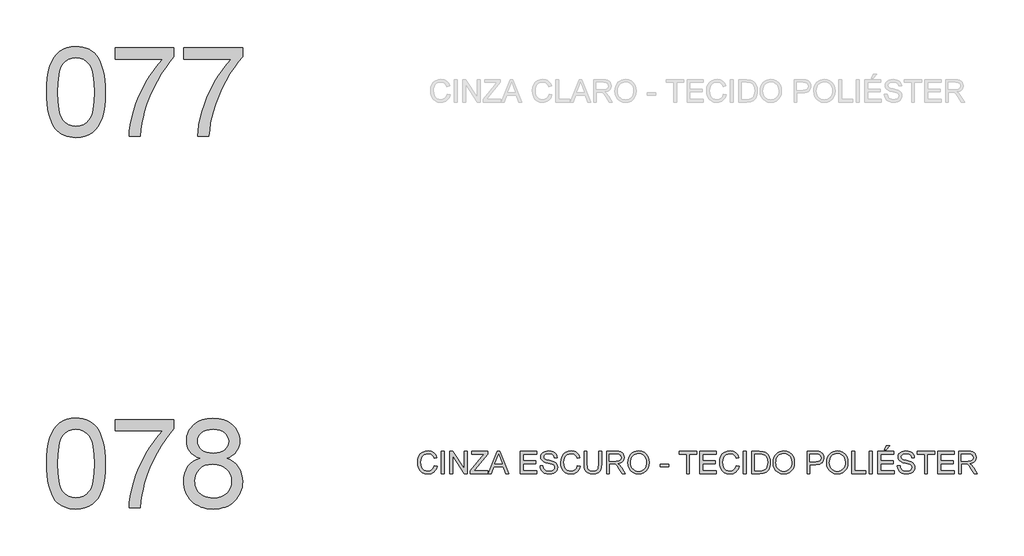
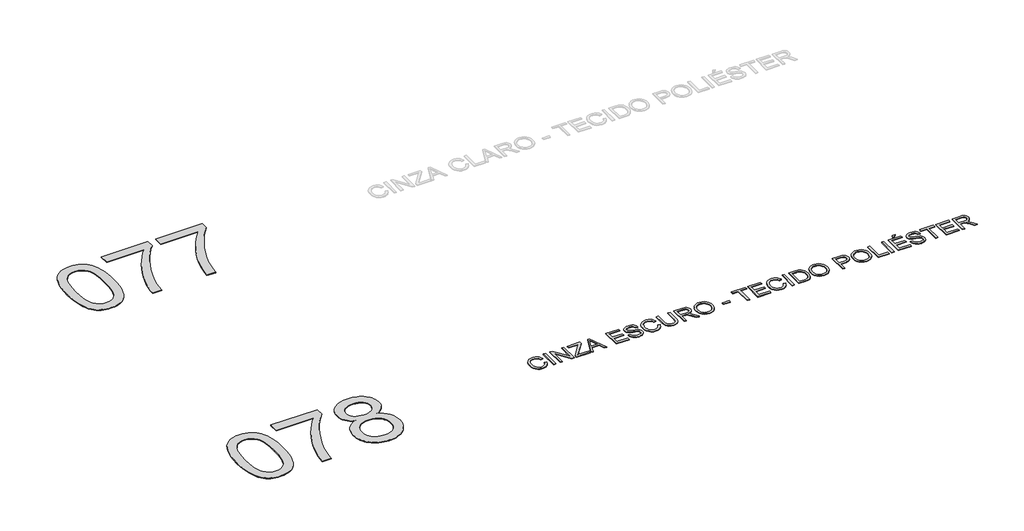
# One storey, part 5 of 35: 3 proxies.
"""IFC4 building model written with IfcOpenShell, lengths in millimetres."""

from ifc_helpers import new_model, si_unit, origin, origin_with_axes, place, context, project, spatial, polyline, outline, extrude, element, save

model = new_model("IFC4")

# Units and contexts
model_context = context("Model", 3, world=origin())
ifc_project = project(units=[si_unit("LENGTHUNIT", "METRE", prefix="MILLI")], contexts=[model_context])

# Site, building, storey
site = spatial("IfcSite", under=ifc_project)
building = spatial("IfcBuilding", under=site)
storey = spatial("IfcBuildingStorey", under=building, Name="Marelli - Linha YOU - Planta Baixa", Elevation=0.0)

# Proxies
placement = place(None, origin())
element("IfcBuildingElementProxy", 1, Name="1200mm Arial", ObjectType="1200mm Arial", at=placement, inside=storey, context=model_context, shape_type="SweptSolid", body=[
    extrude(outline(polyline([(-25181.1313792, -114895.792664), (-25178.3630672, -114794.4319773), (-25170.0581311, -114702.8385576), (-25156.2165711, -114621.0124048), (-25136.838387, -114548.953519), (-25112.0063523, -114486.073289), (-25081.8032405, -114431.7831035), (-25046.2290516, -114386.0829627), (-25005.2837855, -114348.9728664), (-24958.8294866, -114320.2596767), (-24906.728199, -114299.7502555), (-24848.9799228, -114287.4446027), (-24785.584658, -114283.3427185), (-24737.9439396, -114285.7707396), (-24692.7312424, -114293.0548031), (-24649.9465664, -114305.194909), (-24609.5899115, -114322.1910572), (-24572.6361651, -114343.7581391), (-24540.0602144, -114369.6110463), (-24511.8620595, -114399.7497788), (-24488.0417003, -114434.1743365), (-24467.4035204, -114472.7467637), (-24448.7519032, -114515.3291046), (-24417.4083572, -114612.5235278), (-24405.4337983, -114669.6831928), (-24396.8805419, -114735.9479371), (-24391.7485881, -114811.3177609), (-24390.0379368, -114895.792664), (-24392.7786576, -114996.5095573), (-24401.0008202, -115087.6431245), (-24414.7044246, -115169.1933658), (-24433.8894706, -115241.1602811), (-24458.5283672, -115304.0681023), (-24488.5935233, -115358.4410612), (-24524.0849388, -115404.2791578), (-24565.0026137, -115441.5823921), (-24611.5120949, -115470.4887199), (-24663.7789294, -115491.1360968), (-24721.8031171, -115503.524523), (-24785.584658, -115507.6539984), (-24828.2589694, -115505.8605737), (-24868.5788361, -115500.4802995), (-24906.544258, -115491.5131759), (-24942.1552351, -115478.9592028), (-24975.4117675, -115462.8183803), (-25006.3138551, -115443.0907083), (-25034.8614979, -115419.7761868), (-25061.054696, -115392.8748159), (-25089.1976686, -115350.2786794), (-25113.5882449, -115302.0999336), (-25134.2264248, -115248.3385785), (-25151.1122084, -115188.9946142), (-25164.2455956, -115124.0680406), (-25173.6265865, -115053.5588577), (-25179.255181, -114977.4670655), (-25181.1313792, -114895.792664)]), holes=[polyline([(-25030.446914, -114895.4983584), (-25026.03233, -115026.4919399), (-25012.7885782, -115132.5247279), (-25002.8557643, -115176.1808245), (-24990.7156585, -115213.5967226), (-24976.3682607, -115244.7724225), (-24959.8135709, -115269.7079239), (-24922.4367602, -115307.884878), (-24880.9396711, -115335.1541309), (-24835.3223037, -115351.5156826), (-24785.584658, -115356.9695332), (-24735.8470122, -115351.4972885), (-24690.2296448, -115335.0805545), (-24648.7325558, -115307.7193311), (-24611.3557451, -115269.4136183), (-24594.8010553, -115244.418336), (-24580.4536575, -115213.2104465), (-24568.3135516, -115175.7899498), (-24558.3807378, -115132.1568459), (-24545.1369859, -115026.2528166), (-24540.722402, -114895.4983584), (-24544.9898331, -114767.9720648), (-24557.7921266, -114663.8062779), (-24567.3938467, -114620.4835744), (-24579.1292823, -114583.0009976), (-24592.9984335, -114551.3585475), (-24609.0013003, -114525.5562241), (-24645.7527116, -114485.5122689), (-24687.7280473, -114456.9094438), (-24734.9273073, -114439.7477487), (-24787.3504916, -114434.0271837), (-24836.8306199, -114439.067167), (-24881.6754351, -114454.187117), (-24921.8849372, -114479.3870337), (-24957.4591261, -114514.666917), (-24974.5656389, -114543.2145599), (-24989.3912833, -114577.2068562), (-25001.9360594, -114616.6438061), (-25012.199967, -114661.5254095), (-25025.8851772, -114767.6225769), (-25030.446914, -114895.4983584)])]), origin_with_axes(), (0.0, 0.0, 1.0), 10.0),
    extrude(outline(polyline([(-24258.1890297, -114452.8627418), (-24258.1890297, -114302.1782766), (-23467.0955873, -114302.1782766), (-23467.0955873, -114424.0207934), (-23523.6114588, -114490.5246611), (-23579.8514188, -114566.7222194), (-23635.8154673, -114652.6134682), (-23691.5036043, -114748.1984076), (-23743.8991975, -114849.3383651), (-23789.9856144, -114951.8946683), (-23829.7628552, -115055.8673172), (-23863.2309197, -115161.2563118), (-23883.1701238, -115237.7941609), (-23899.1362024, -115317.9004653), (-23911.1291555, -115401.5752251), (-23919.1489829, -115488.8184403), (-24069.8334482, -115488.8184403), (-24065.0969675, -115414.8189769), (-24053.5362758, -115333.4986619), (-24035.1513731, -115244.8574952), (-24009.9422594, -115148.8954767), (-23978.2032402, -115050.1651463), (-23940.2286213, -114953.2190435), (-23896.0184025, -114858.0571684), (-23845.5725839, -114764.679521), (-23791.1628368, -114675.8268221), (-23735.0608326, -114594.2397926), (-23677.2665711, -114519.9184325), (-23617.7800525, -114452.8627418), (-24258.1890297, -114452.8627418)])), origin_with_axes(), (0.0, 0.0, 1.0), 10.0),
    extrude(outline(polyline([(-23335.2466802, -114452.8627418), (-23335.2466802, -114302.1782766), (-22544.1532378, -114302.1782766), (-22544.1532378, -114424.0207934), (-22600.6691093, -114490.5246611), (-22656.9090693, -114566.7222194), (-22712.8731178, -114652.6134682), (-22768.5612548, -114748.1984076), (-22820.956848, -114849.3383651), (-22867.0432649, -114951.8946683), (-22906.8205057, -115055.8673172), (-22940.2885702, -115161.2563118), (-22960.2277743, -115237.7941609), (-22976.1938529, -115317.9004653), (-22988.186806, -115401.5752251), (-22996.2066334, -115488.8184403), (-23146.8910987, -115488.8184403), (-23142.154618, -115414.8189769), (-23130.5939263, -115333.4986619), (-23112.2090236, -115244.8574952), (-23086.9999099, -115148.8954767), (-23055.2608907, -115050.1651463), (-23017.2862718, -114953.2190435), (-22973.076053, -114858.0571684), (-22922.6302344, -114764.679521), (-22868.2204873, -114675.8268221), (-22812.1184831, -114594.2397926), (-22754.3242216, -114519.9184325), (-22694.837703, -114452.8627418), (-23335.2466802, -114452.8627418)])), origin_with_axes(), (0.0, 0.0, 1.0), 10.0),
])
element("IfcBuildingElementProxy", 2, Name="1200mm Arial", ObjectType="1200mm Arial", at=placement, inside=storey, context=model_context, shape_type="SweptSolid", body=[
    extrude(outline(polyline([(-25181.1313792, -119895.792664), (-25178.3630672, -119794.4319773), (-25170.0581311, -119702.8385576), (-25156.2165711, -119621.0124048), (-25136.838387, -119548.953519), (-25112.0063523, -119486.073289), (-25081.8032405, -119431.7831035), (-25046.2290516, -119386.0829627), (-25005.2837855, -119348.9728664), (-24958.8294866, -119320.2596767), (-24906.728199, -119299.7502555), (-24848.9799228, -119287.4446027), (-24785.584658, -119283.3427185), (-24737.9439396, -119285.7707396), (-24692.7312424, -119293.0548031), (-24649.9465664, -119305.194909), (-24609.5899115, -119322.1910572), (-24572.6361651, -119343.7581391), (-24540.0602144, -119369.6110463), (-24511.8620595, -119399.7497788), (-24488.0417003, -119434.1743365), (-24467.4035204, -119472.7467637), (-24448.7519032, -119515.3291046), (-24417.4083572, -119612.5235278), (-24405.4337983, -119669.6831928), (-24396.8805419, -119735.9479371), (-24391.7485881, -119811.3177609), (-24390.0379368, -119895.792664), (-24392.7786576, -119996.5095573), (-24401.0008202, -120087.6431245), (-24414.7044246, -120169.1933658), (-24433.8894706, -120241.1602811), (-24458.5283672, -120304.0681023), (-24488.5935233, -120358.4410612), (-24524.0849388, -120404.2791578), (-24565.0026137, -120441.5823921), (-24611.5120949, -120470.4887199), (-24663.7789294, -120491.1360968), (-24721.8031171, -120503.524523), (-24785.584658, -120507.6539984), (-24828.2589694, -120505.8605737), (-24868.5788361, -120500.4802995), (-24906.544258, -120491.5131759), (-24942.1552351, -120478.9592028), (-24975.4117675, -120462.8183803), (-25006.3138551, -120443.0907083), (-25034.8614979, -120419.7761868), (-25061.054696, -120392.8748159), (-25089.1976686, -120350.2786794), (-25113.5882449, -120302.0999336), (-25134.2264248, -120248.3385785), (-25151.1122084, -120188.9946142), (-25164.2455956, -120124.0680406), (-25173.6265865, -120053.5588577), (-25179.255181, -119977.4670655), (-25181.1313792, -119895.792664)]), holes=[polyline([(-25030.446914, -119895.4983584), (-25026.03233, -120026.4919399), (-25012.7885782, -120132.5247279), (-25002.8557643, -120176.1808245), (-24990.7156585, -120213.5967226), (-24976.3682607, -120244.7724225), (-24959.8135709, -120269.7079239), (-24922.4367602, -120307.884878), (-24880.9396711, -120335.1541309), (-24835.3223037, -120351.5156826), (-24785.584658, -120356.9695332), (-24735.8470122, -120351.4972885), (-24690.2296448, -120335.0805545), (-24648.7325558, -120307.7193311), (-24611.3557451, -120269.4136183), (-24594.8010553, -120244.418336), (-24580.4536575, -120213.2104465), (-24568.3135516, -120175.7899498), (-24558.3807378, -120132.1568459), (-24545.1369859, -120026.2528166), (-24540.722402, -119895.4983584), (-24544.9898331, -119767.9720648), (-24557.7921266, -119663.8062779), (-24567.3938467, -119620.4835744), (-24579.1292823, -119583.0009976), (-24592.9984335, -119551.3585475), (-24609.0013003, -119525.5562241), (-24645.7527116, -119485.5122689), (-24687.7280473, -119456.9094438), (-24734.9273073, -119439.7477487), (-24787.3504916, -119434.0271837), (-24836.8306199, -119439.067167), (-24881.6754351, -119454.187117), (-24921.8849372, -119479.3870337), (-24957.4591261, -119514.666917), (-24974.5656389, -119543.2145599), (-24989.3912833, -119577.2068562), (-25001.9360594, -119616.6438061), (-25012.199967, -119661.5254095), (-25025.8851772, -119767.6225769), (-25030.446914, -119895.4983584)])]), origin_with_axes(), (0.0, 0.0, 1.0), 10.0),
    extrude(outline(polyline([(-24258.1890297, -119452.8627418), (-24258.1890297, -119302.1782766), (-23467.0955873, -119302.1782766), (-23467.0955873, -119424.0207934), (-23523.6114588, -119490.5246611), (-23579.8514188, -119566.7222194), (-23635.8154673, -119652.6134682), (-23691.5036043, -119748.1984076), (-23743.8991975, -119849.3383651), (-23789.9856144, -119951.8946683), (-23829.7628552, -120055.8673172), (-23863.2309197, -120161.2563118), (-23883.1701238, -120237.7941609), (-23899.1362024, -120317.9004653), (-23911.1291555, -120401.5752251), (-23919.1489829, -120488.8184403), (-24069.8334482, -120488.8184403), (-24065.0969675, -120414.8189769), (-24053.5362758, -120333.4986619), (-24035.1513731, -120244.8574952), (-24009.9422594, -120148.8954767), (-23978.2032402, -120050.1651463), (-23940.2286213, -119953.2190435), (-23896.0184025, -119858.0571684), (-23845.5725839, -119764.679521), (-23791.1628368, -119675.8268221), (-23735.0608326, -119594.2397926), (-23677.2665711, -119519.9184325), (-23617.7800525, -119452.8627418), (-24258.1890297, -119452.8627418)])), origin_with_axes(), (0.0, 0.0, 1.0), 10.0),
    extrude(outline(polyline([(-23115.6947055, -119824.8650154), (-23159.0404016, -119806.7652212), (-23196.371227, -119785.1337599), (-23227.6871819, -119759.9706314), (-23252.9882661, -119731.2758358), (-23272.4952089, -119699.3252845), (-23286.4287394, -119664.3948891), (-23294.7888578, -119626.4846495), (-23297.5755639, -119585.5945657), (-23291.505511, -119524.1398784), (-23283.9179448, -119495.3301197), (-23273.2953522, -119467.7987509), (-23259.6377331, -119441.545772), (-23242.9450876, -119416.571183), (-23200.4547172, -119370.4571749), (-23175.1674285, -119350.0397242), (-23147.865986, -119332.3446002), (-23118.5503895, -119317.371803), (-23087.2206391, -119305.1213326), (-23018.5186765, -119288.787372), (-22941.7600982, -119283.3427185), (-22864.6336379, -119288.9161307), (-22795.4166405, -119305.6363674), (-22763.7741904, -119318.1765449), (-22734.109106, -119333.5034285), (-22706.4213873, -119351.6170183), (-22680.7110344, -119372.5173141), (-22637.4481118, -119419.5326331), (-22620.4519636, -119444.8613085), (-22606.5460242, -119471.4039944), (-22595.7302935, -119499.1606909), (-22588.0047716, -119528.1313981), (-22583.3694585, -119558.3161158), (-22581.8243541, -119589.7148441), (-22584.574272, -119629.160991), (-22592.8240257, -119665.9767817), (-22606.5736153, -119700.1622161), (-22625.8230407, -119731.7172942), (-22650.6642724, -119760.2189518), (-22681.189281, -119785.2441245), (-22717.3980664, -119806.7928124), (-22759.2906286, -119824.8650154), (-22709.764515, -119845.9354566), (-22666.5475776, -119872.6528865), (-22629.6398164, -119905.0173051), (-22599.0412315, -119943.0287122), (-22575.0277342, -119985.8409794), (-22557.8752362, -120032.607978), (-22547.5837374, -120083.3297081), (-22544.1532378, -120138.0061697), (-22545.854692, -120176.3670647), (-22550.9590547, -120213.1644613), (-22559.4663258, -120248.3983594), (-22571.3765054, -120282.068759), (-22586.6895935, -120314.1756601), (-22605.40559, -120344.7190628), (-22627.5244949, -120373.6989669), (-22653.0463083, -120401.1153726), (-22681.3456308, -120426.085363), (-22711.797063, -120447.7260214), (-22744.4006048, -120466.0373477), (-22779.1562563, -120481.019342), (-22816.0640175, -120492.6720042), (-22855.1238883, -120500.9953343), (-22896.3358688, -120505.9893324), (-22939.699959, -120507.6539984), (-22983.0640492, -120505.9824346), (-23024.2760297, -120500.9677432), (-23063.3359005, -120492.6099241), (-23100.2436617, -120480.9089774), (-23134.9993132, -120465.864903), (-23167.602855, -120447.4777011), (-23198.0542872, -120425.7473715), (-23226.3536096, -120400.6739142), (-23251.875423, -120373.1034579), (-23273.994328, -120343.8821312), (-23292.7103245, -120313.009934), (-23308.0234126, -120280.4868664), (-23319.9335922, -120246.3129283), (-23328.4408633, -120210.4881198), (-23333.545226, -120173.0124408), (-23335.2466802, -120133.8858913), (-23331.6782249, -120076.7170293), (-23320.9728588, -120024.4042096), (-23303.130582, -119976.9474322), (-23278.1513946, -119934.3466971), (-23246.5871194, -119897.3745566), (-23208.9895795, -119866.8035628), (-23165.3587748, -119842.6337157), (-23115.6947055, -119824.8650154)]), holes=[polyline([(-23146.8910987, -119590.0091497), (-23143.5525696, -119624.553269), (-23133.5369822, -119655.7864504), (-23116.8443367, -119683.7086938), (-23093.474633, -119708.3199993), (-23063.7221766, -119728.4063562), (-23027.8812732, -119742.753754), (-22985.9519228, -119751.3621927), (-22937.9341254, -119754.2316723), (-22891.1027474, -119751.3805868), (-22850.083905, -119742.8273304), (-22814.877598, -119728.5719031), (-22785.4838266, -119708.6143049), (-22762.3072609, -119684.5180342), (-22745.7525711, -119657.8465896), (-22735.8197573, -119628.5999709), (-22732.5088193, -119596.7781784), (-22735.9301219, -119563.714784), (-22746.1940295, -119533.3921106), (-22763.3005423, -119505.810158), (-22787.2496602, -119480.9689263), (-22817.3056192, -119460.4319139), (-22852.7326553, -119445.7626193), (-22893.5307686, -119436.9610426), (-22939.699959, -119434.0271837), (-22986.2278343, -119436.8966633), (-23027.2190856, -119445.5051019), (-23062.6737129, -119459.8524998), (-23092.5917162, -119479.9388567), (-23116.347696, -119504.0351274), (-23133.3162531, -119530.4122664), (-23143.4973873, -119559.0702739), (-23146.8910987, -119590.0091497)]), polyline([(-23184.562215, -120128.5883906), (-23182.9895195, -120157.6418712), (-23178.2714329, -120186.2354992), (-23159.3990865, -120242.0431979), (-23144.3986982, -120267.9328933), (-23124.5606616, -120290.7139859), (-23099.8849767, -120310.3864756), (-23070.3716437, -120326.9503624), (-23038.1819691, -120340.0837496), (-23005.4772597, -120349.4647405), (-22972.2575156, -120355.093335), (-22938.5227366, -120356.9695332), (-22884.0394131, -120353.0239988), (-22835.9572364, -120341.1873956), (-22794.2762063, -120321.4597236), (-22758.996323, -120293.8409828), (-22730.9269267, -120260.133795), (-22710.877358, -120222.140782), (-22698.8476167, -120179.8619437), (-22694.837703, -120133.2972801), (-22698.9763754, -120085.9876555), (-22711.3923928, -120042.9454621), (-22732.085755, -120004.1706998), (-22761.0564621, -119969.6633687), (-22797.2928387, -119941.336455), (-22839.7832091, -119921.1029453), (-22888.5275735, -119908.9628395), (-22943.5259317, -119904.9161375), (-22997.2091119, -119908.9076572), (-23044.6566922, -119920.8822161), (-23085.8686727, -119940.8398144), (-23120.8450534, -119968.7804519), (-23148.7213116, -120002.7175659), (-23168.6329246, -120040.6645937), (-23180.5798924, -120082.6215353), (-23184.562215, -120128.5883906)])]), origin_with_axes(), (0.0, 0.0, 1.0), 10.0),
])
element("IfcBuildingElementProxy", 3, Name="300mm Arial", ObjectType="300mm Arial", at=placement, inside=storey, context=model_context, shape_type="SweptSolid", body=[
    extrude(outline(polyline([(-19962.5883605, -119923.4390831), (-19924.9172442, -119933.1511677), (-19932.3714531, -119956.5783531), (-19942.2996685, -119977.0486868), (-19954.7018902, -119994.5621691), (-19969.5781184, -120009.1187997), (-19986.5926607, -120020.5622291), (-20005.4098247, -120028.7361071), (-20026.0296106, -120033.640434), (-20048.4520182, -120035.2752096), (-20092.1472021, -120030.3271968), (-20126.8476713, -120015.4831583), (-20153.4455396, -119991.2581289), (-20172.8329207, -119958.1671434), (-20184.6695239, -119919.2636224), (-20188.6150583, -119877.6009865), (-20184.1544891, -119833.6574822), (-20170.7727816, -119795.7104543), (-20149.1689114, -119764.9647166), (-20120.0418544, -119742.6250824), (-20085.4977351, -119729.0226457), (-20047.6426778, -119724.4885001), (-20006.3387268, -119730.3562179), (-19988.3699906, -119737.6908652), (-19972.1900806, -119747.9593714), (-19958.0657112, -119760.8904235), (-19946.263597, -119776.2127086), (-19929.6261337, -119814.0309777), (-19967.29725, -119823.0072984), (-19980.3570609, -119795.5357104), (-19998.1993376, -119776.6909552), (-20021.0448095, -119765.7924511), (-20049.1142058, -119762.1596164), (-20081.4694272, -119766.1879242), (-20108.0489014, -119778.2728478), (-20128.2180318, -119797.1451941), (-20141.3422219, -119821.5357704), (-20148.543512, -119849.1085259), (-20150.943942, -119877.5274101), (-20148.1020536, -119912.3290468), (-20139.5763884, -119942.421794), (-20125.0450496, -119966.6560205), (-20104.1861404, -119983.8820949), (-20079.1793618, -119994.1735937), (-20052.2044145, -119997.6040933), (-20020.759701, -119992.931992), (-19994.5573059, -119978.9156879), (-19974.7744516, -119955.7023341), (-19962.5883605, -119923.4390831)])), origin_with_axes(), (0.0, 0.0, 1.0), 10.0),
    extrude(outline(polyline([(-19868.4105697, -120030.5663201), (-19868.4105697, -119729.1973896), (-19830.7394534, -119729.1973896), (-19830.7394534, -120030.5663201), (-19868.4105697, -120030.5663201)])), origin_with_axes(), (0.0, 0.0, 1.0), 10.0),
    extrude(outline(polyline([(-19755.3972208, -120030.5663201), (-19755.3972208, -119729.1973896), (-19715.0773541, -119729.1973896), (-19557.6238602, -119967.9528045), (-19557.6238602, -119729.1973896), (-19519.9527439, -119729.1973896), (-19519.9527439, -120030.5663201), (-19560.2726106, -120030.5663201), (-19717.7261045, -119791.7373288), (-19717.7261045, -120030.5663201), (-19755.3972208, -120030.5663201)])), origin_with_axes(), (0.0, 0.0, 1.0), 10.0),
    extrude(outline(polyline([(-19477.5727381, -120030.5663201), (-19477.5727381, -119991.4972522), (-19323.4301821, -119802.7737887), (-19294.1467753, -119766.8685059), (-19458.7371799, -119766.8685059), (-19458.7371799, -119729.1973896), (-19246.8371507, -119729.1973896), (-19246.8371507, -119766.8685059), (-19415.5478337, -119973.397458), (-19431.4403359, -119992.8952038), (-19242.1282611, -119992.8952038), (-19242.1282611, -120030.5663201), (-19477.5727381, -120030.5663201)])), origin_with_axes(), (0.0, 0.0, 1.0), 10.0),
    extrude(outline(polyline([(-19234.8441976, -120030.5663201), (-19114.5467852, -119729.1973896), (-19082.4674752, -119729.1973896), (-18962.1700628, -120030.5663201), (-19001.9748947, -120030.5663201), (-19036.4822258, -119936.3885293), (-19160.605611, -119936.3885293), (-19195.0393658, -120030.5663201), (-19234.8441976, -120030.5663201)]), holes=[polyline([(-19146.773248, -119898.717413), (-19050.2410125, -119898.717413), (-19077.3907037, -119824.6259792), (-19098.5071302, -119766.8685059), (-19117.269112, -119818.1512561), (-19146.773248, -119898.717413)])]), origin_with_axes(), (0.0, 0.0, 1.0), 10.0),
    extrude(outline(polyline([(-18804.2015341, -120030.5663201), (-18804.2015341, -119729.1973896), (-18587.5926153, -119729.1973896), (-18587.5926153, -119766.8685059), (-18766.5304178, -119766.8685059), (-18766.5304178, -119856.3374072), (-18597.0103944, -119856.3374072), (-18597.0103944, -119894.0085235), (-18766.5304178, -119894.0085235), (-18766.5304178, -119992.8952038), (-18582.8837258, -119992.8952038), (-18582.8837258, -120030.5663201), (-18804.2015341, -120030.5663201)])), origin_with_axes(), (0.0, 0.0, 1.0), 10.0),
    extrude(outline(polyline([(-18540.5037199, -119926.9707502), (-18502.8326036, -119926.9707502), (-18498.5099902, -119947.8756446), (-18490.6924978, -119964.6786547), (-18478.4972097, -119978.0143771), (-18461.041209, -119988.517408), (-18439.7040533, -119995.332422), (-18415.8653, -119997.6040933), (-18394.8776321, -119995.884245), (-18376.5019265, -119990.7247), (-18361.6119027, -119982.5577197), (-18351.0812806, -119971.8155654), (-18344.8180897, -119959.4823216), (-18342.7303593, -119946.5420724), (-18344.2938578, -119933.932917), (-18348.9843532, -119923.0344129), (-18358.5124969, -119913.7361955), (-18374.5889401, -119905.9279001), (-18429.4401456, -119891.5437141), (-18465.4465959, -119882.0247675), (-18488.4852058, -119872.9656733), (-18507.2379905, -119860.2921386), (-18520.5277276, -119844.9330653), (-18528.4463875, -119827.2195472), (-18531.0859409, -119807.4826782), (-18527.8209882, -119785.4189555), (-18518.02613, -119764.845155), (-18501.9588839, -119747.4075484), (-18479.8767671, -119734.7524077), (-18453.3708694, -119727.054477), (-18424.0322803, -119724.4885001), (-18392.2472759, -119727.1740386), (-18364.435397, -119735.2306543), (-18341.5899251, -119748.4928003), (-18324.7041416, -119766.7949295), (-18314.0171696, -119788.9966079), (-18309.7681326, -119813.9574013), (-18347.4392489, -119813.9574013), (-18354.3554304, -119791.4798114), (-18368.7764046, -119775.2562154), (-18391.3091768, -119765.4337661), (-18422.5607523, -119762.1596164), (-18454.5480918, -119765.3969779), (-18476.4922528, -119775.1090626), (-18489.1841816, -119789.4012781), (-18493.4148246, -119806.3790322), (-18490.4165863, -119820.8551887), (-18481.4218715, -119832.4986539), (-18460.1582922, -119842.9097143), (-18419.9120019, -119853.541504), (-18378.3781247, -119863.6398648), (-18353.2517844, -119872.4506385), (-18331.7766729, -119886.1174547), (-18316.7946787, -119902.9848441), (-18307.9931019, -119922.868866), (-18305.059243, -119945.5855792), (-18308.4345603, -119968.8081301), (-18318.5605122, -119990.6511236), (-18335.0232315, -120009.4498935), (-18357.4088509, -120023.539774), (-18384.3286159, -120032.3413507), (-18414.393772, -120035.2752096), (-18451.3015332, -120032.1114244), (-18481.6793889, -120022.620069), (-18505.8768271, -120006.764355), (-18524.2433358, -119984.5074943), (-18536.0339537, -119957.3945912), (-18540.5037199, -119926.9707502)])), origin_with_axes(), (0.0, 0.0, 1.0), 10.0),
    extrude(outline(polyline([(-18036.6525393, -119923.4390831), (-17998.981423, -119933.1511677), (-18006.435632, -119956.5783531), (-18016.3638473, -119977.0486868), (-18028.7660691, -119994.5621691), (-18043.6422973, -120009.1187997), (-18060.6568395, -120020.5622291), (-18079.4740036, -120028.7361071), (-18100.0937894, -120033.640434), (-18122.516197, -120035.2752096), (-18166.211381, -120030.3271968), (-18200.9118502, -120015.4831583), (-18227.5097184, -119991.2581289), (-18246.8970996, -119958.1671434), (-18258.7337028, -119919.2636224), (-18262.6792372, -119877.6009865), (-18258.218668, -119833.6574822), (-18244.8369604, -119795.7104543), (-18223.2330902, -119764.9647166), (-18194.1060333, -119742.6250824), (-18159.5619139, -119729.0226457), (-18121.7068566, -119724.4885001), (-18080.4029056, -119730.3562179), (-18062.4341694, -119737.6908652), (-18046.2542594, -119747.9593714), (-18032.1298901, -119760.8904235), (-18020.3277758, -119776.2127086), (-18003.6903126, -119814.0309777), (-18041.3614289, -119823.0072984), (-18054.4212397, -119795.5357104), (-18072.2635165, -119776.6909552), (-18095.1089884, -119765.7924511), (-18123.1783846, -119762.1596164), (-18155.5336061, -119766.1879242), (-18182.1130802, -119778.2728478), (-18202.2822106, -119797.1451941), (-18215.4064008, -119821.5357704), (-18222.6076909, -119849.1085259), (-18225.0081209, -119877.5274101), (-18222.1662325, -119912.3290468), (-18213.6405672, -119942.421794), (-18199.1092284, -119966.6560205), (-18178.2503193, -119983.8820949), (-18153.2435407, -119994.1735937), (-18126.2685934, -119997.6040933), (-18094.8238798, -119992.931992), (-18068.6214847, -119978.9156879), (-18048.8386304, -119955.7023341), (-18036.6525393, -119923.4390831)])), origin_with_axes(), (0.0, 0.0, 1.0), 10.0),
    extrude(outline(polyline([(-17749.4102775, -119729.1973896), (-17711.7391612, -119729.1973896), (-17711.7391612, -119903.0584205), (-17714.2959411, -119943.7737604), (-17721.9662807, -119975.1265034), (-17736.2952844, -119999.3147446), (-17758.8280566, -120018.5365788), (-17789.6197796, -120031.0905519), (-17828.7256357, -120035.2752096), (-17866.9761661, -120031.6331779), (-17897.556357, -120020.7070826), (-17920.4754053, -120002.8740029), (-17935.7425081, -119978.5110178), (-17944.3233556, -119945.8338995), (-17947.1836381, -119903.0584205), (-17947.1836381, -119729.1973896), (-17909.5125218, -119729.1973896), (-17909.5125218, -119901.7340454), (-17907.6547177, -119935.588386), (-17902.0813055, -119959.1604248), (-17891.9829447, -119975.4851883), (-17876.550295, -119987.597703), (-17856.4271499, -119995.1024957), (-17832.2573028, -119997.6040933), (-17793.942393, -119992.6560805), (-17779.5995937, -119986.4710644), (-17768.4665649, -119977.812042), (-17760.1294391, -119965.6351479), (-17754.1743493, -119948.8965171), (-17749.4102775, -119901.7340454), (-17749.4102775, -119729.1973896)])), origin_with_axes(), (0.0, 0.0, 1.0), 10.0),
    extrude(outline(polyline([(-17645.8147077, -120030.5663201), (-17645.8147077, -119729.1973896), (-17515.9523634, -119729.1973896), (-17481.0495591, -119731.2299376), (-17455.6565044, -119737.3275817), (-17437.0968577, -119748.5847708), (-17422.6942776, -119766.0959537), (-17413.4512425, -119787.8101885), (-17410.3702308, -119811.6765329), (-17415.4745934, -119841.3646099), (-17430.7876815, -119865.9759154), (-17442.3874606, -119876.0052983), (-17456.7693474, -119884.0205273), (-17493.8794437, -119894.0085235), (-17472.4687115, -119910.1217548), (-17441.9345059, -119948.8965171), (-17391.6818254, -120030.5663201), (-17435.4597828, -120030.5663201), (-17474.6760035, -119968.0999573), (-17503.0029171, -119926.750021), (-17522.9053331, -119907.2154871), (-17540.8211862, -119900.0417882), (-17562.6733768, -119898.717413), (-17608.1435914, -119898.717413), (-17608.1435914, -120030.5663201), (-17645.8147077, -120030.5663201)]), holes=[polyline([(-17608.1435914, -119861.0462967), (-17523.8250381, -119861.0462967), (-17499.6092057, -119859.7127245), (-17480.8196328, -119855.7120078), (-17466.6745701, -119848.7774322), (-17456.3922684, -119838.6422832), (-17450.1290774, -119826.3826157), (-17448.0413471, -119813.0744845), (-17452.0236697, -119794.6987789), (-17463.9706375, -119779.8915286), (-17484.5260439, -119770.1242616), (-17514.3336826, -119766.8685059), (-17608.1435914, -119766.8685059), (-17608.1435914, -119861.0462967)])]), origin_with_axes(), (0.0, 0.0, 1.0), 10.0),
    extrude(outline(polyline([(-17358.5724458, -119883.8549804), (-17356.0616512, -119848.5061192), (-17348.5292674, -119817.213157), (-17335.9752943, -119789.9760937), (-17318.399732, -119766.7949295), (-17296.8556426, -119748.2858666), (-17272.3960885, -119735.0651074), (-17245.0210695, -119727.1326519), (-17214.7305857, -119724.4885001), (-17175.2016653, -119729.454907), (-17139.7562351, -119744.3541278), (-17110.3256755, -119768.1376988), (-17088.841367, -119799.7571563), (-17075.7079797, -119837.68579), (-17071.330184, -119880.3968896), (-17075.937906, -119923.6782064), (-17089.761072, -119962.140269), (-17112.0363268, -119993.8149088), (-17142.0003153, -120016.7339571), (-17177.1422429, -120030.6398965), (-17214.9513149, -120035.2752096), (-17255.0872406, -120030.1524528), (-17290.7350059, -120014.7841825), (-17320.0919891, -119990.5591531), (-17341.3555685, -119958.8661192), (-17354.2682265, -119922.3998164), (-17358.5724458, -119883.8549804)]), holes=[polyline([(-17320.9013295, -119884.2228624), (-17319.0182336, -119909.1974513), (-17313.3689457, -119931.3669401), (-17303.9534659, -119950.7313286), (-17290.7717941, -119967.2906169), (-17274.748234, -119980.5527628), (-17256.8070889, -119990.0257242), (-17236.948359, -119995.709501), (-17215.1720441, -119997.6040933), (-17193.0232487, -119995.6911069), (-17172.929994, -119989.9521478), (-17154.8922799, -119980.3872159), (-17138.9101065, -119966.9963113), (-17125.8250038, -119950.0875351), (-17116.4785019, -119929.9689885), (-17110.8706007, -119906.6406715), (-17109.0013003, -119880.102584), (-17112.2018737, -119846.7540812), (-17121.8035937, -119817.9305269), (-17137.5581402, -119794.358488), (-17159.2171926, -119776.7645316), (-17185.3460114, -119765.8108452), (-17214.5098565, -119762.1596164), (-17235.529714, -119763.9185522), (-17255.0320583, -119769.1953595), (-17273.0168893, -119777.9900385), (-17289.4842071, -119790.302589), (-17303.2291982, -119806.7262208), (-17313.0470489, -119827.8541437), (-17318.9377594, -119853.6863575), (-17320.9013295, -119884.2228624)])]), origin_with_axes(), (0.0, 0.0, 1.0), 10.0),
    extrude(outline(polyline([(-16925.3546083, -119941.0974188), (-16925.3546083, -119903.4263025), (-16807.6323699, -119903.4263025), (-16807.6323699, -119941.0974188), (-16925.3546083, -119941.0974188)])), origin_with_axes(), (0.0, 0.0, 1.0), 10.0),
    extrude(outline(polyline([(-16567.4790034, -120030.5663201), (-16567.4790034, -119766.8685059), (-16666.3656837, -119766.8685059), (-16666.3656837, -119729.1973896), (-16430.9212068, -119729.1973896), (-16430.9212068, -119766.8685059), (-16529.8078871, -119766.8685059), (-16529.8078871, -120030.5663201), (-16567.4790034, -120030.5663201)])), origin_with_axes(), (0.0, 0.0, 1.0), 10.0),
    extrude(outline(polyline([(-16388.541201, -120030.5663201), (-16388.541201, -119729.1973896), (-16171.9322822, -119729.1973896), (-16171.9322822, -119766.8685059), (-16350.8700846, -119766.8685059), (-16350.8700846, -119856.3374072), (-16181.3500613, -119856.3374072), (-16181.3500613, -119894.0085235), (-16350.8700846, -119894.0085235), (-16350.8700846, -119992.8952038), (-16167.2233927, -119992.8952038), (-16167.2233927, -120030.5663201), (-16388.541201, -120030.5663201)])), origin_with_axes(), (0.0, 0.0, 1.0), 10.0),
    extrude(outline(polyline([(-15898.816689, -119923.4390831), (-15861.1455727, -119933.1511677), (-15868.5997816, -119956.5783531), (-15878.5279969, -119977.0486868), (-15890.9302187, -119994.5621691), (-15905.8064469, -120009.1187997), (-15922.8209892, -120020.5622291), (-15941.6381532, -120028.7361071), (-15962.257939, -120033.640434), (-15984.6803466, -120035.2752096), (-16028.3755306, -120030.3271968), (-16063.0759998, -120015.4831583), (-16089.6738681, -119991.2581289), (-16109.0612492, -119958.1671434), (-16120.8978524, -119919.2636224), (-16124.8433868, -119877.6009865), (-16120.3828176, -119833.6574822), (-16107.00111, -119795.7104543), (-16085.3972399, -119764.9647166), (-16056.2701829, -119742.6250824), (-16021.7260636, -119729.0226457), (-15983.8710063, -119724.4885001), (-15942.5670552, -119730.3562179), (-15924.598319, -119737.6908652), (-15908.418409, -119747.9593714), (-15894.2940397, -119760.8904235), (-15882.4919254, -119776.2127086), (-15865.8544622, -119814.0309777), (-15903.5255785, -119823.0072984), (-15916.5853893, -119795.5357104), (-15934.4276661, -119776.6909552), (-15957.273138, -119765.7924511), (-15985.3425342, -119762.1596164), (-16017.6977557, -119766.1879242), (-16044.2772299, -119778.2728478), (-16064.4463603, -119797.1451941), (-16077.5705504, -119821.5357704), (-16084.7718405, -119849.1085259), (-16087.1722705, -119877.5274101), (-16084.3303821, -119912.3290468), (-16075.8047169, -119942.421794), (-16061.273378, -119966.6560205), (-16040.4144689, -119983.8820949), (-16015.4076903, -119994.1735937), (-15988.432743, -119997.6040933), (-15956.9880295, -119992.931992), (-15930.7856344, -119978.9156879), (-15911.0027801, -119955.7023341), (-15898.816689, -119923.4390831)])), origin_with_axes(), (0.0, 0.0, 1.0), 10.0),
    extrude(outline(polyline([(-15804.6388982, -120030.5663201), (-15804.6388982, -119729.1973896), (-15766.9677819, -119729.1973896), (-15766.9677819, -120030.5663201), (-15804.6388982, -120030.5663201)])), origin_with_axes(), (0.0, 0.0, 1.0), 10.0),
    extrude(outline(polyline([(-15691.6255493, -120030.5663201), (-15691.6255493, -119729.1973896), (-15587.6620975, -119729.1973896), (-15533.8777498, -119733.5383972), (-15509.8550555, -119741.9077126), (-15489.5847575, -119755.0962821), (-15468.7442425, -119778.0521186), (-15453.900204, -119806.5997614), (-15445.0158538, -119840.1873876), (-15442.0544038, -119878.2631741), (-15444.0593606, -119910.6091985), (-15450.0742313, -119939.0740679), (-15459.2344929, -119963.3082943), (-15470.675623, -119982.9623899), (-15483.8457984, -119998.477813), (-15498.1931962, -120010.2960221), (-15514.6651126, -120019.0608107), (-15534.2088436, -120025.4159721), (-15582.6589023, -120030.5663201), (-15691.6255493, -120030.5663201)]), holes=[polyline([(-15653.954433, -119992.8952038), (-15587.2942155, -119992.8952038), (-15559.7214599, -119991.5340404), (-15538.8073685, -119987.4505502), (-15523.0252309, -119980.8838566), (-15510.8483369, -119972.0730828), (-15497.7609349, -119955.7667134), (-15487.9292886, -119934.6594839), (-15481.7764622, -119908.6594239), (-15479.7255201, -119877.6745629), (-15483.7446309, -119836.6189322), (-15495.8019633, -119806.3054558), (-15513.6166489, -119785.4833349), (-15534.9078193, -119772.9017706), (-15556.5760689, -119768.3768221), (-15588.324285, -119766.8685059), (-15653.954433, -119766.8685059), (-15653.954433, -119992.8952038)])]), origin_with_axes(), (0.0, 0.0, 1.0), 10.0),
    extrude(outline(polyline([(-15404.3832875, -119883.8549804), (-15401.8724928, -119848.5061192), (-15394.340109, -119817.213157), (-15381.7861359, -119789.9760937), (-15364.2105736, -119766.7949295), (-15342.6664842, -119748.2858666), (-15318.2069301, -119735.0651074), (-15290.8319111, -119727.1326519), (-15260.5414273, -119724.4885001), (-15221.012507, -119729.454907), (-15185.5670767, -119744.3541278), (-15156.1365171, -119768.1376988), (-15134.6522086, -119799.7571563), (-15121.5188214, -119837.68579), (-15117.1410256, -119880.3968896), (-15121.7487476, -119923.6782064), (-15135.5719136, -119962.140269), (-15157.8471684, -119993.8149088), (-15187.8111569, -120016.7339571), (-15222.9530845, -120030.6398965), (-15260.7621565, -120035.2752096), (-15300.8980822, -120030.1524528), (-15336.5458475, -120014.7841825), (-15365.9028308, -119990.5591531), (-15387.1664101, -119958.8661192), (-15400.0790681, -119922.3998164), (-15404.3832875, -119883.8549804)]), holes=[polyline([(-15366.7121711, -119884.2228624), (-15364.8290752, -119909.1974513), (-15359.1797873, -119931.3669401), (-15349.7643075, -119950.7313286), (-15336.5826357, -119967.2906169), (-15320.5590756, -119980.5527628), (-15302.6179305, -119990.0257242), (-15282.7592006, -119995.709501), (-15260.9828857, -119997.6040933), (-15238.8340904, -119995.6911069), (-15218.7408356, -119989.9521478), (-15200.7031216, -119980.3872159), (-15184.7209481, -119966.9963113), (-15171.6358454, -119950.0875351), (-15162.2893435, -119929.9689885), (-15156.6814423, -119906.6406715), (-15154.8121419, -119880.102584), (-15158.0127153, -119846.7540812), (-15167.6144354, -119817.9305269), (-15183.3689818, -119794.358488), (-15205.0280343, -119776.7645316), (-15231.156853, -119765.8108452), (-15260.3206981, -119762.1596164), (-15281.3405556, -119763.9185522), (-15300.8428999, -119769.1953595), (-15318.827731, -119777.9900385), (-15335.2950488, -119790.302589), (-15349.0400398, -119806.7262208), (-15358.8578906, -119827.8541437), (-15364.748601, -119853.6863575), (-15366.7121711, -119884.2228624)])]), origin_with_axes(), (0.0, 0.0, 1.0), 10.0),
    extrude(outline(polyline([(-14947.6210022, -120030.5663201), (-14947.6210022, -119729.1973896), (-14835.9320285, -119729.1973896), (-14790.9032723, -119732.0668692), (-14770.8261124, -119737.4287493), (-14754.2990138, -119746.1567496), (-14740.9908826, -119758.6463433), (-14730.5706251, -119775.2930036), (-14723.8383846, -119794.9287051), (-14721.5943044, -119816.3854225), (-14723.1095184, -119834.8852883), (-14727.6551603, -119851.9044291), (-14735.2312301, -119867.4428449), (-14745.8377279, -119881.5005356), (-14760.3989571, -119893.1531978), (-14779.8392213, -119901.476528), (-14804.1585204, -119906.470526), (-14833.3568545, -119908.1351921), (-14909.9498859, -119908.1351921), (-14909.9498859, -120030.5663201), (-14947.6210022, -120030.5663201)]), holes=[polyline([(-14909.9498859, -119870.4640758), (-14831.1495626, -119870.4640758), (-14797.7458774, -119867.005985), (-14775.6729577, -119856.6317127), (-14763.367305, -119839.9850525), (-14759.2654207, -119817.7097977), (-14761.6842448, -119800.7872259), (-14768.9407172, -119786.5134045), (-14780.1335269, -119775.7712502), (-14794.3613631, -119769.4436799), (-14832.0324794, -119766.8685059), (-14909.9498859, -119766.8685059), (-14909.9498859, -119870.4640758)])]), origin_with_axes(), (0.0, 0.0, 1.0), 10.0),
    extrude(outline(polyline([(-14683.9231881, -119883.8549804), (-14681.4123935, -119848.5061192), (-14673.8800096, -119817.213157), (-14661.3260365, -119789.9760937), (-14643.7504742, -119766.7949295), (-14622.2063849, -119748.2858666), (-14597.7468307, -119735.0651074), (-14570.3718118, -119727.1326519), (-14540.081328, -119724.4885001), (-14500.5524076, -119729.454907), (-14465.1069774, -119744.3541278), (-14435.6764178, -119768.1376988), (-14414.1921092, -119799.7571563), (-14401.058722, -119837.68579), (-14396.6809263, -119880.3968896), (-14401.2886483, -119923.6782064), (-14415.1118142, -119962.140269), (-14437.387069, -119993.8149088), (-14467.3510575, -120016.7339571), (-14502.4929851, -120030.6398965), (-14540.3020572, -120035.2752096), (-14580.4379829, -120030.1524528), (-14616.0857482, -120014.7841825), (-14645.4427314, -119990.5591531), (-14666.7063107, -119958.8661192), (-14679.6189688, -119922.3998164), (-14683.9231881, -119883.8549804)]), holes=[polyline([(-14646.2520718, -119884.2228624), (-14644.3689758, -119909.1974513), (-14638.7196879, -119931.3669401), (-14629.3042081, -119950.7313286), (-14616.1225364, -119967.2906169), (-14600.0989762, -119980.5527628), (-14582.1578312, -119990.0257242), (-14562.2991012, -119995.709501), (-14540.5227864, -119997.6040933), (-14518.373991, -119995.6911069), (-14498.2807363, -119989.9521478), (-14480.2430222, -119980.3872159), (-14464.2608488, -119966.9963113), (-14451.1757461, -119950.0875351), (-14441.8292441, -119929.9689885), (-14436.221343, -119906.6406715), (-14434.3520426, -119880.102584), (-14437.5526159, -119846.7540812), (-14447.154336, -119817.9305269), (-14462.9088824, -119794.358488), (-14484.5679349, -119776.7645316), (-14510.6967536, -119765.8108452), (-14539.8605988, -119762.1596164), (-14560.8804563, -119763.9185522), (-14580.3828006, -119769.1953595), (-14598.3676316, -119777.9900385), (-14614.8349494, -119790.302589), (-14628.5799405, -119806.7262208), (-14638.3977912, -119827.8541437), (-14644.2885016, -119853.6863575), (-14646.2520718, -119884.2228624)])]), origin_with_axes(), (0.0, 0.0, 1.0), 10.0),
    extrude(outline(polyline([(-14344.8831413, -120030.5663201), (-14344.8831413, -119729.1973896), (-14307.212025, -119729.1973896), (-14307.212025, -119992.8952038), (-14156.5275598, -119992.8952038), (-14156.5275598, -120030.5663201), (-14344.8831413, -120030.5663201)])), origin_with_axes(), (0.0, 0.0, 1.0), 10.0),
    extrude(outline(polyline([(-14109.4386644, -120030.5663201), (-14109.4386644, -119729.1973896), (-14071.7675481, -119729.1973896), (-14071.7675481, -120030.5663201), (-14109.4386644, -120030.5663201)])), origin_with_axes(), (0.0, 0.0, 1.0), 10.0),
    extrude(outline(polyline([(-13996.4253155, -120030.5663201), (-13996.4253155, -119729.1973896), (-13779.8163968, -119729.1973896), (-13779.8163968, -119766.8685059), (-13958.7541992, -119766.8685059), (-13958.7541992, -119856.3374072), (-13789.2341758, -119856.3374072), (-13789.2341758, -119894.0085235), (-13958.7541992, -119894.0085235), (-13958.7541992, -119992.8952038), (-13775.1075072, -119992.8952038), (-13775.1075072, -120030.5663201), (-13996.4253155, -120030.5663201)])), origin_with_axes(), (0.0, 0.0, 1.0), 10.0),
    extrude(outline(polyline([(-13911.6653038, -119710.3618315), (-13883.4119666, -119653.855157), (-13836.3230712, -119653.855157), (-13883.4119666, -119710.3618315), (-13911.6653038, -119710.3618315)])), origin_with_axes(), (0.0, 0.0, 1.0), 10.0),
    extrude(outline(polyline([(-13732.7275014, -119926.9707502), (-13695.0563851, -119926.9707502), (-13690.7337716, -119947.8756446), (-13682.9162792, -119964.6786547), (-13670.7209911, -119978.0143771), (-13653.2649904, -119988.517408), (-13631.9278347, -119995.332422), (-13608.0890814, -119997.6040933), (-13587.1014136, -119995.884245), (-13568.7257079, -119990.7247), (-13553.8356842, -119982.5577197), (-13543.3050621, -119971.8155654), (-13537.0418711, -119959.4823216), (-13534.9541408, -119946.5420724), (-13536.5176392, -119933.932917), (-13541.2081347, -119923.0344129), (-13550.7362784, -119913.7361955), (-13566.8127215, -119905.9279001), (-13621.663927, -119891.5437141), (-13657.6703773, -119882.0247675), (-13680.7089873, -119872.9656733), (-13699.461772, -119860.2921386), (-13712.751509, -119844.9330653), (-13720.670169, -119827.2195472), (-13723.3097223, -119807.4826782), (-13720.0447696, -119785.4189555), (-13710.2499115, -119764.845155), (-13694.1826653, -119747.4075484), (-13672.1005486, -119734.7524077), (-13645.5946508, -119727.054477), (-13616.2560617, -119724.4885001), (-13584.4710573, -119727.1740386), (-13556.6591785, -119735.2306543), (-13533.8137066, -119748.4928003), (-13516.927923, -119766.7949295), (-13506.240951, -119788.9966079), (-13501.991914, -119813.9574013), (-13539.6630303, -119813.9574013), (-13546.5792118, -119791.4798114), (-13561.000186, -119775.2562154), (-13583.5329582, -119765.4337661), (-13614.7845337, -119762.1596164), (-13646.7718732, -119765.3969779), (-13668.7160342, -119775.1090626), (-13681.407963, -119789.4012781), (-13685.638606, -119806.3790322), (-13682.6403677, -119820.8551887), (-13673.6456529, -119832.4986539), (-13652.3820736, -119842.9097143), (-13612.1357834, -119853.541504), (-13570.6019061, -119863.6398648), (-13545.4755658, -119872.4506385), (-13524.0004544, -119886.1174547), (-13509.0184601, -119902.9848441), (-13500.2168834, -119922.868866), (-13497.2830245, -119945.5855792), (-13500.6583418, -119968.8081301), (-13510.7842937, -119990.6511236), (-13527.247013, -120009.4498935), (-13549.6326324, -120023.539774), (-13576.5523974, -120032.3413507), (-13606.6175534, -120035.2752096), (-13643.5253146, -120032.1114244), (-13673.9031703, -120022.620069), (-13698.1006086, -120006.764355), (-13716.4671172, -119984.5074943), (-13728.2577351, -119957.3945912), (-13732.7275014, -119926.9707502)])), origin_with_axes(), (0.0, 0.0, 1.0), 10.0),
    extrude(outline(polyline([(-13365.4341174, -120030.5663201), (-13365.4341174, -119766.8685059), (-13464.3207977, -119766.8685059), (-13464.3207977, -119729.1973896), (-13228.8763208, -119729.1973896), (-13228.8763208, -119766.8685059), (-13327.7630011, -119766.8685059), (-13327.7630011, -120030.5663201), (-13365.4341174, -120030.5663201)])), origin_with_axes(), (0.0, 0.0, 1.0), 10.0),
    extrude(outline(polyline([(-13186.4963149, -120030.5663201), (-13186.4963149, -119729.1973896), (-12969.8873962, -119729.1973896), (-12969.8873962, -119766.8685059), (-13148.8251986, -119766.8685059), (-13148.8251986, -119856.3374072), (-12979.3051752, -119856.3374072), (-12979.3051752, -119894.0085235), (-13148.8251986, -119894.0085235), (-13148.8251986, -119992.8952038), (-12965.1785066, -119992.8952038), (-12965.1785066, -120030.5663201), (-13186.4963149, -120030.5663201)])), origin_with_axes(), (0.0, 0.0, 1.0), 10.0),
    extrude(outline(polyline([(-12908.6718322, -120030.5663201), (-12908.6718322, -119729.1973896), (-12778.8094879, -119729.1973896), (-12743.9066836, -119731.2299376), (-12718.5136289, -119737.3275817), (-12699.9539822, -119748.5847708), (-12685.5514021, -119766.0959537), (-12676.308367, -119787.8101885), (-12673.2273553, -119811.6765329), (-12678.3317179, -119841.3646099), (-12693.644806, -119865.9759154), (-12705.2445852, -119876.0052983), (-12719.6264719, -119884.0205273), (-12756.7365682, -119894.0085235), (-12735.325836, -119910.1217548), (-12704.7916304, -119948.8965171), (-12654.5389499, -120030.5663201), (-12698.3169073, -120030.5663201), (-12737.533128, -119968.0999573), (-12765.8600416, -119926.750021), (-12785.7624576, -119907.2154871), (-12803.6783108, -119900.0417882), (-12825.5305013, -119898.717413), (-12871.0007159, -119898.717413), (-12871.0007159, -120030.5663201), (-12908.6718322, -120030.5663201)]), holes=[polyline([(-12871.0007159, -119861.0462967), (-12786.6821626, -119861.0462967), (-12762.4663302, -119859.7127245), (-12743.6767573, -119855.7120078), (-12729.5316946, -119848.7774322), (-12719.2493929, -119838.6422832), (-12712.9862019, -119826.3826157), (-12710.8984716, -119813.0744845), (-12714.8807942, -119794.6987789), (-12726.827762, -119779.8915286), (-12747.3831684, -119770.1242616), (-12777.1908071, -119766.8685059), (-12871.0007159, -119766.8685059), (-12871.0007159, -119861.0462967)])]), origin_with_axes(), (0.0, 0.0, 1.0), 10.0),
])

save(model, "model.ifc")
